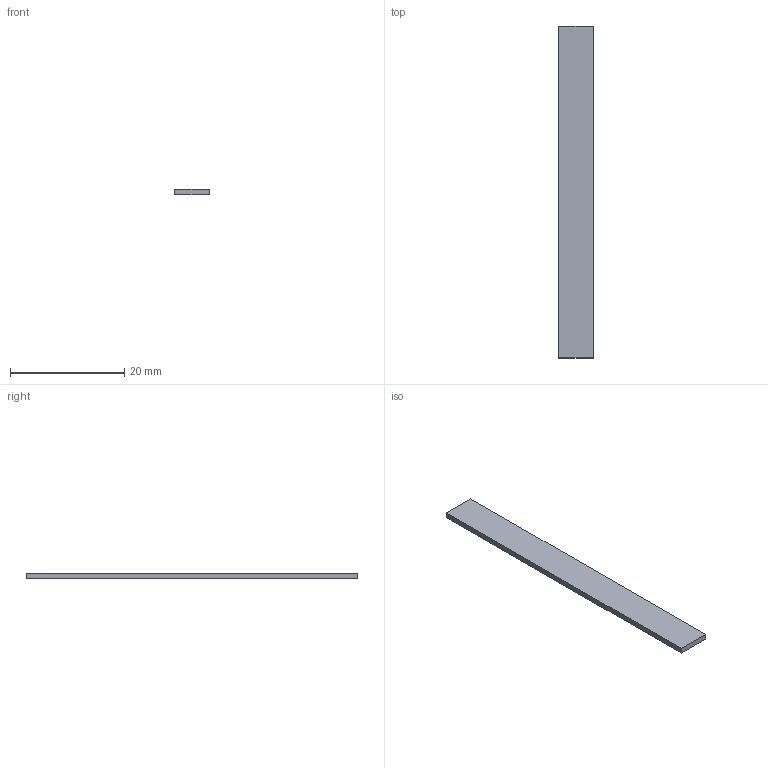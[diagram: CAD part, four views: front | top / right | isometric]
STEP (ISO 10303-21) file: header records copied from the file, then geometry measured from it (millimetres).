
FILE_DESCRIPTION(('Open CASCADE Model'),'2;1');
FILE_NAME('Open CASCADE Shape Model','2026-10-04T01:02:33',('Author'),( 'Open CASCADE'),'Open CASCADE STEP processor 8.0','Open CASCADE 8.0' ,'Unknown');
FILE_SCHEMA(('AUTOMOTIVE_DESIGN { 1 0 10303 214 1 1 1 1 }'));
Length unit declared in the file: millimetre
Products named in the file (1): Open CASCADE STEP translator 8.0 308
Bounding box: 6 x 58 x 1 mm (x, y, z)
Volume: 348 mm3; surface area: 824 mm2
Topology: 1 solids, 1 shells, 6 faces, 12 edges, 8 vertices
Faces by surface type: plane 6
Entity records: 322 total; most frequent: CARTESIAN_POINT 51, DIRECTION 50, LINE 36, VECTOR 36, ORIENTED_EDGE 24, PCURVE 24, DEFINITIONAL_REPRESENTATION 24, EDGE_CURVE 12
